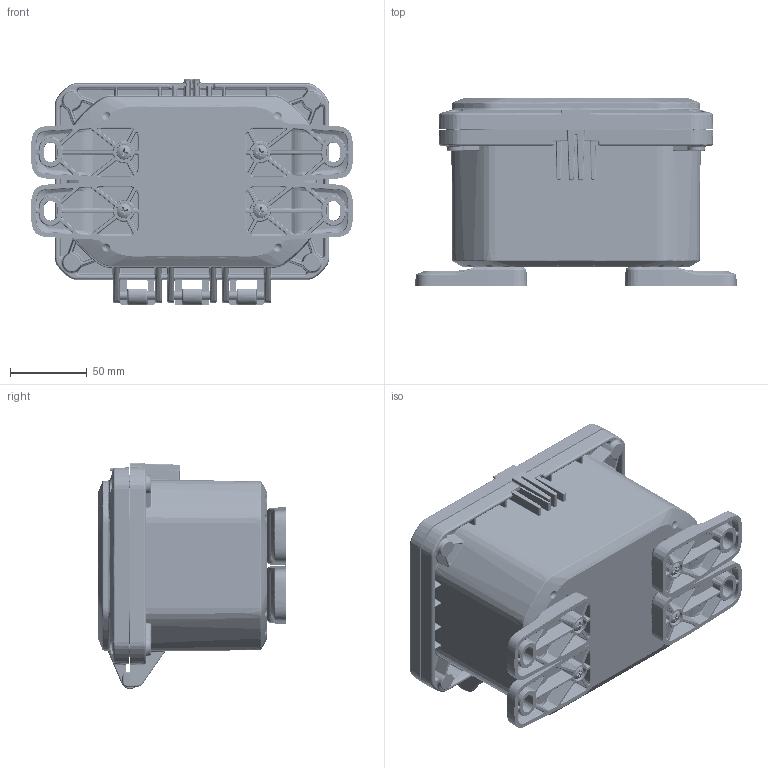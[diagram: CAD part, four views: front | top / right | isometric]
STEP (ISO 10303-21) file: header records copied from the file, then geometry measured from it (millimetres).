
FILE_DESCRIPTION (( 'STEP AP214' ), '1' );
FILE_NAME ('ZH-060404-33.STEP', '2024-10-25T16:24:16', ( '' ), ( '' ), 'SwSTEP 2.0', 'SolidWorks 2024', '' );
FILE_SCHEMA (( 'AUTOMOTIVE_DESIGN' ));
Length unit declared in the file: inch
Products named in the file (11): ZH-060404-33; ZH-01F_ZH-01F-01; ZH-0604G; Z_-06043B_ZH-06043B-01; Z_-06041CG_ZH-06041CG-01; Z_-06043BI_ZH-06043BI-01; LABEL-104; Z_-06041C_ZH-06041C-01; INSERTS-4; SCREWS-046_SCREWS-046; SCREWS-047_default
Assembly tree (30 placements, depth 3):
  ZH-060404-33
    Z_-06043BI_ZH-06043BI-01
      Z_-06043B_ZH-06043B-01
      INSERTS-4  x12
      LABEL-104
    Z_-06041CG_ZH-06041CG-01
      Z_-06041C_ZH-06041C-01
      ZH-0604G
    ZH-01F_ZH-01F-01  x4
    SCREWS-046_SCREWS-046  x4
    SCREWS-047_default  x4
Bounding box: 209.55 x 122.68 x 147.19 mm (x, y, z)
Volume: 536958.3 mm3; surface area: 318102.9 mm2
Topology: 28 solids, 28 shells, 7716 faces, 18899 edges, 11192 vertices
Faces by surface type: bspline 2431, cylinder 1718, plane 1455, cone 1148, torus 758, sphere 206
Entity records: 241842 total; most frequent: CARTESIAN_POINT 144109, ORIENTED_EDGE 22600, DIRECTION 18023, EDGE_CURVE 11300, AXIS2_PLACEMENT_3D 7588, VERTEX_POINT 6585, EDGE_LOOP 4931, FACE_OUTER_BOUND 4817
